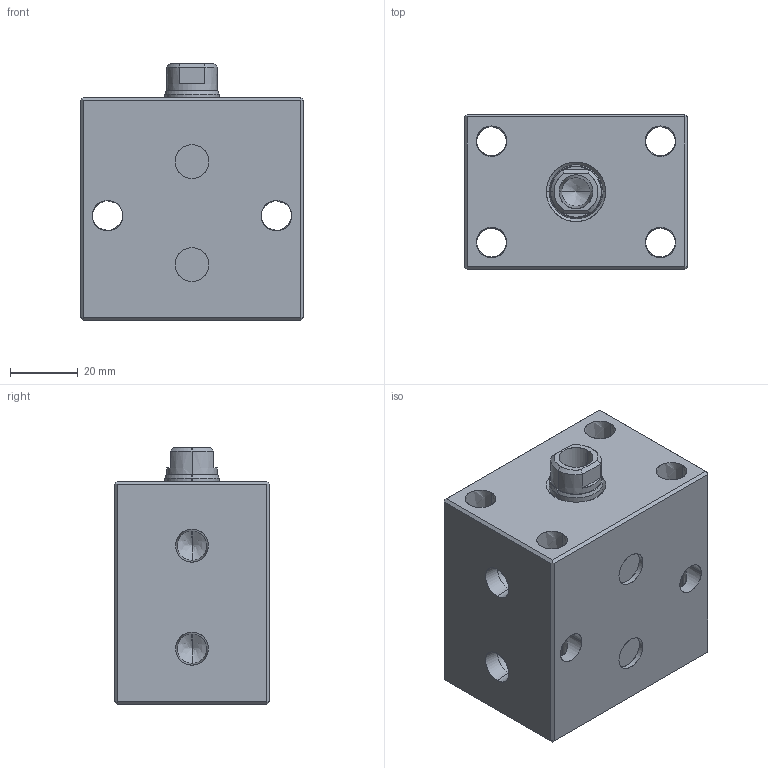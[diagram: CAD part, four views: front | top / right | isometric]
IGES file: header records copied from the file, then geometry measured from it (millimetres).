
Start section: SolidWorks IGES file using analytic representation for surfaces
Global section: file name: E:\ALL-SSVT-BLOCK\IGSMODEL-25-BORE\BC04-25-16.IGS; native system: SolidWorks 2019; preprocessor: SolidWorks 2019; author: SSVT; date: 210824.091247; units: millimetre
Bounding box: 66 x 46 x 76 mm (x, y, z)
Surface area: 35083.2 mm2 (no closed solid volume)
Topology: 0 solids, 0 shells, 99 faces, 1737 edges, 1731 vertices
Faces by surface type: revolution 63, bspline 36
